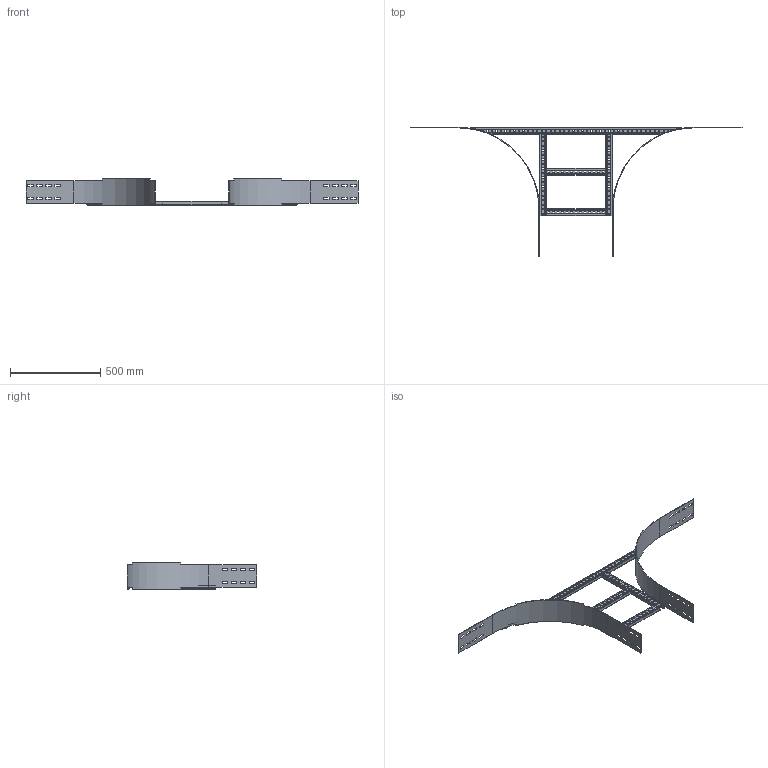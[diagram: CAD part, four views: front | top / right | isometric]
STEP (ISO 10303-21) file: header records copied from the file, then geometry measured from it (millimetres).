
FILE_DESCRIPTION(('Creo Elements/Direct Modeling STEP Export'),'2;1');
FILE_NAME('WPBP15-40-45.stp','2016-06-03T11:44:57',(''),(''),'PTC Creo Elements/Direct Modeling STEP processor for AP214 (Solid Model)','PTC Creo Elements/Direct Modeling 19.0C 15-Aug-2015 (C) Parametric Technology GmbH','');
FILE_SCHEMA(('AUTOMOTIVE_DESIGN { 1 0 10303 214 1 1 1 1 }'));
Length unit declared in the file: millimetre
Products named in the file (5): WPAASP1_40; WPAASP2; WPAAIG_150-450.1; WPKS40.1; WPBP15-40-45
Assembly tree (7 placements, depth 2):
  WPBP15-40-45
    WPKS40.1  x2
    WPAAIG_150-450.1  x2
    WPAASP2  x2
    WPAASP1_40
Bounding box: 1835 x 715 x 145 mm (x, y, z)
Volume: 1324896.8 mm3; surface area: 1178151.1 mm2
Topology: 7 solids, 7 shells, 797 faces, 2349 edges, 1566 vertices
Faces by surface type: plane 489, cylinder 308
Entity records: 17482 total; most frequent: ORIENTED_EDGE 3018, CARTESIAN_POINT 3004, DIRECTION 2929, EDGE_CURVE 1509, VECTOR 1067, LINE 1067, VERTEX_POINT 1006, AXIS2_PLACEMENT_3D 931
